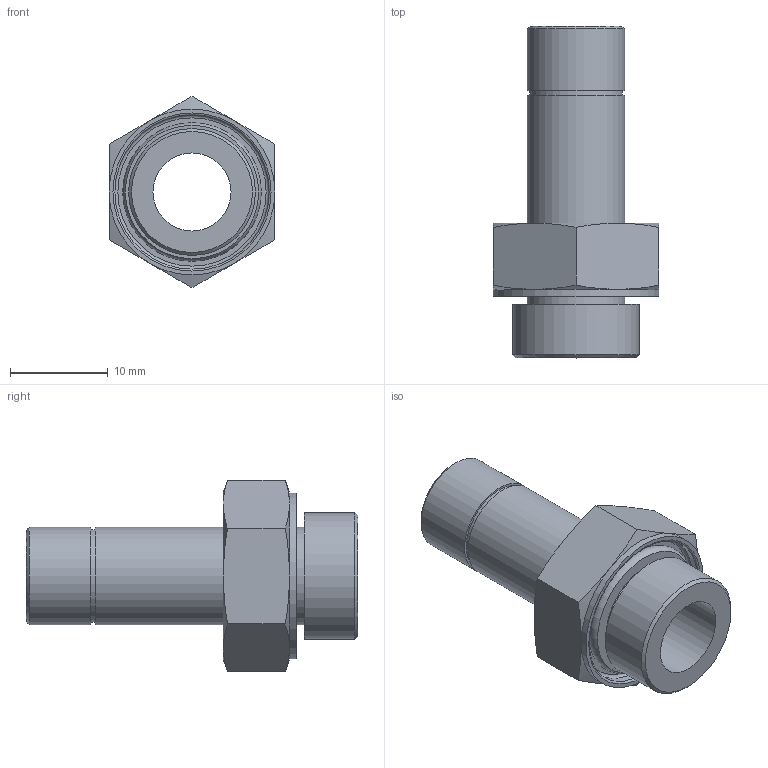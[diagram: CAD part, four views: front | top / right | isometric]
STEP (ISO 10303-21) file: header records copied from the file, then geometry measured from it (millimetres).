
FILE_DESCRIPTION(/* description */ (''),/* implementation_level */ '2;1');
FILE_NAME(/* name */ 'LXH16 0010 B2.stp',/* time_stamp */ '2026-04-29T15:05:57+02:00',/* author */ ('freju'),/* organization */ (''),/* preprocessor_version */ 'ST-DEVELOPER v20.1',/* originating_system */ 'Autodesk Inventor 2026',/* authorisation */ '');
FILE_SCHEMA (('AUTOMOTIVE_DESIGN { 1 0 10303 214 3 1 1 }'));
Length unit declared in the file: millimetre
Products named in the file (4): LXH16 0010 B2; LXH16 0010 B2_1; O-Ring; ISO 3601-1 - A 0106 G
Assembly tree (3 placements, depth 3):
  LXH16 0010 B2
    LXH16 0010 B2_1
    O-Ring
      ISO 3601-1 - A 0106 G
Bounding box: 17 x 34 x 19.63 mm (x, y, z)
Volume: 2462.3 mm3; surface area: 2969.4 mm2
Topology: 2 solids, 2 shells, 46 faces, 92 edges, 57 vertices
Faces by surface type: plane 17, cone 14, cylinder 9, torus 6
Full cylindrical faces by diameter (mm): 8 x1, 9.5 x1, 10 x3, 10.6 x1, 13 x1, 15.8 x1, 17 x1
Entity records: 1329 total; most frequent: CARTESIAN_POINT 250, DIRECTION 225, ORIENTED_EDGE 184, AXIS2_PLACEMENT_3D 104, EDGE_CURVE 92, EDGE_LOOP 57, VERTEX_POINT 57, CIRCLE 51
